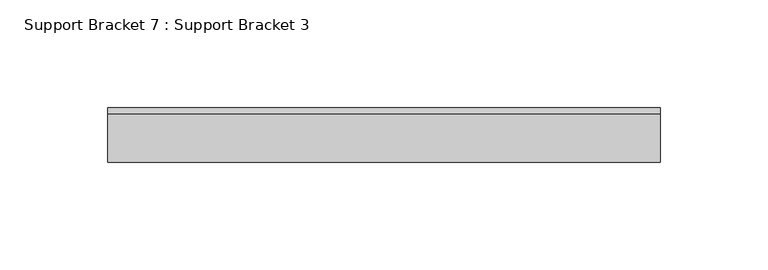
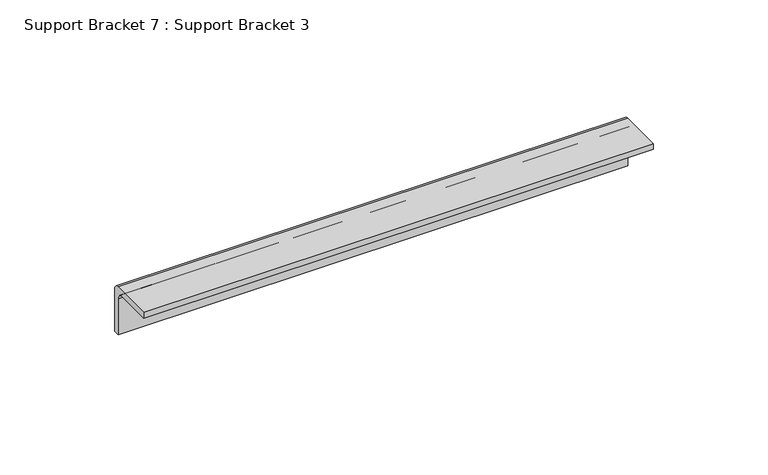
"""IFC4 building model written with IfcOpenShell, lengths in millimetres: proxy geometry, Support Bracket 7 : Support Bracket 3."""

from ifc_helpers import new_model, si_unit, point, frame, frame_2d, origin, place, context, project, spatial, polyline, circle_curve, trimmed, segment, composite_curve, outline, extrude, source, transform, mapped, element, save


def support_bracket_7_support_bracket_3_e27765c6(model_context):
    return source(origin(), model_context, "Body", "SweptSolid", [
        extrude(outline(composite_curve([segment(trimmed(circle_curve(frame_2d((4675.8531714, 1154.1969176)), 3.048), [point((4675.8531714, 1157.2449176))], [point((4678.9011714, 1154.1969176))], False, "CARTESIAN"), True, "CONTINUOUS"), segment(polyline([(4678.9011714, 1154.1969176), (4678.9011714, 1131.8449176), (4675.7261714, 1131.8449176), (4675.7261714, 1151.0219176)]), True, "CONTINUOUS"), segment(trimmed(circle_curve(frame_2d((4672.6781714, 1151.0219176)), 3.048), [point((4675.7261714, 1151.0219176))], [point((4672.6781714, 1154.0699176))], True, "CARTESIAN"), True, "CONTINUOUS"), segment(polyline([(4672.6781714, 1154.0699176), (4653.5011714, 1154.0699176), (4653.5011714, 1157.2449176), (4675.8531714, 1157.2449176)]), True, "CONTINUOUS")], self_intersect=False)), frame((15646.355609, 0.0, 0.0), z_axis=(1.0, 0.0, 0.0), x_axis=(0.0, 1.0, 0.0)), (0.0, 0.0, 1.0), 256.778125),
    ])


if __name__ == "__main__":
    model = new_model("IFC4")
    model_context = context("Model", 3, world=origin())
    ifc_project = project(units=[si_unit("LENGTHUNIT", "METRE", prefix="MILLI")], contexts=[model_context])
    site = spatial("IfcSite", under=ifc_project)
    building = spatial("IfcBuilding", under=site)
    placement = place(None, origin())
    support_bracket_7_support_bracket_3_shape = support_bracket_7_support_bracket_3_e27765c6(model_context)
    element("IfcBuildingElementProxy", 1, Name="Support Bracket 7 : Support Bracket 3", ObjectType="Support Bracket 7 : Support Bracket 3", at=placement, inside=building, context=model_context, shape_type="MappedRepresentation", body=[
        mapped(support_bracket_7_support_bracket_3_shape, transform((0.0, 0.0, 0.0), x_axis=(1.0, 0.0, 0.0), y_axis=(0.0, 1.0, 0.0), z_axis=(0.0, 0.0, 1.0))),
    ])
    save(model, "model.ifc")
